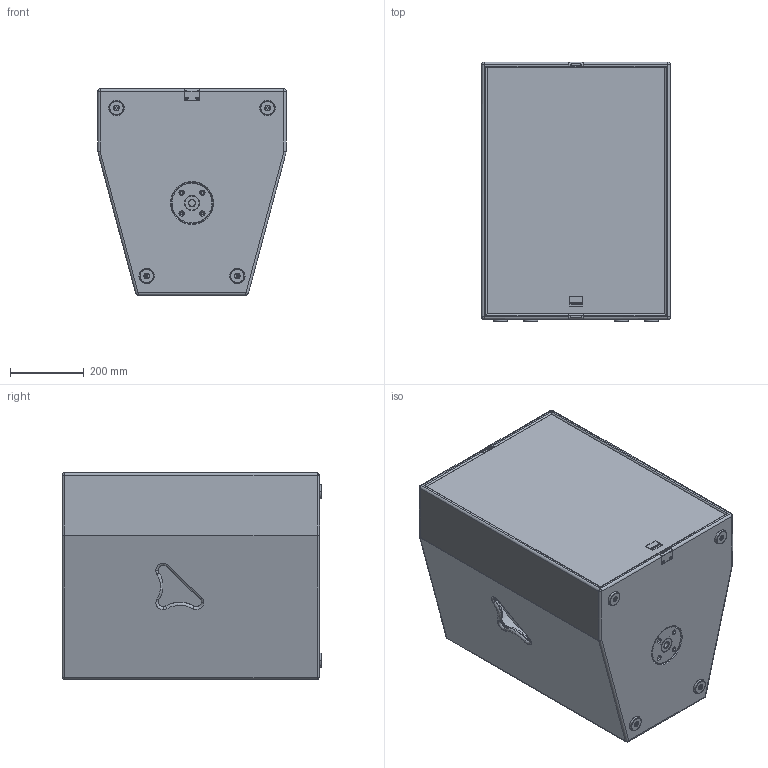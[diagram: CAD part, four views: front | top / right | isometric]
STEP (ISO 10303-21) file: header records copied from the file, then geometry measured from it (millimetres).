
FILE_DESCRIPTION (( 'STEP AP203' ), '1' );
FILE_NAME ('Seeburg_K2.STEP', '2012-10-16T11:39:17', ( 'Fabian' ), ( '' ), 'SwSTEP 2.0', 'SolidWorks 2009', '' );
FILE_SCHEMA (( 'CONFIG_CONTROL_DESIGN' ));
Length unit declared in the file: millimetre
Products named in the file (2): Seeburg_K2; K2
Assembly tree (1 placements, depth 2):
  Seeburg_K2
    K2
Bounding box: 512 x 704 x 560 mm (x, y, z)
Volume: 27864652.7 mm3; surface area: 3954007.4 mm2
Topology: 25 solids, 25 shells, 696 faces, 1753 edges, 1122 vertices
Faces by surface type: cylinder 286, plane 248, torus 84, cone 60, sphere 18
Entity records: 25335 total; most frequent: CARTESIAN_POINT 7999, DIRECTION 3763, ORIENTED_EDGE 3490, EDGE_CURVE 1745, AXIS2_PLACEMENT_3D 1448, VERTEX_POINT 1118, VECTOR 867, LINE 867
